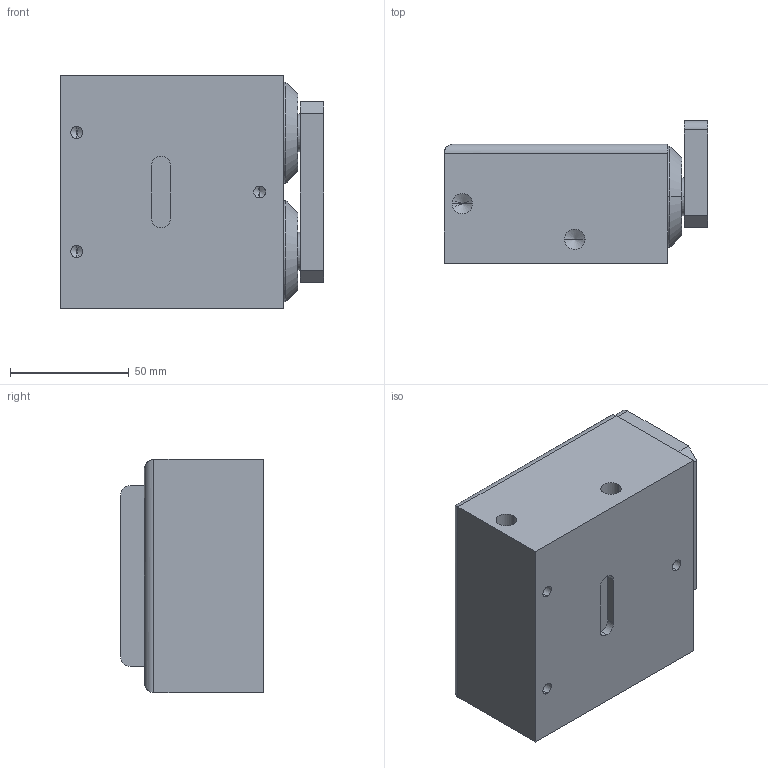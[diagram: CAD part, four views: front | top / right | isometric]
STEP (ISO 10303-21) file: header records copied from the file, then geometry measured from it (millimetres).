
FILE_DESCRIPTION (( 'STEP AP203' ), '1' );
FILE_NAME ('DESHB270.STEP', '2008-09-24T10:42:51', ( '' ), ( '' ), 'SwSTEP 2.0', 'SolidWorks 2007', '' );
FILE_SCHEMA (( 'CONFIG_CONTROL_DESIGN' ));
Length unit declared in the file: millimetre
Products named in the file (1): DESHB270
Bounding box: 111 x 60 x 98 mm (x, y, z)
Volume: 504648.5 mm3; surface area: 48501.2 mm2
Topology: 1 solids, 1 shells, 107 faces, 248 edges, 155 vertices
Faces by surface type: plane 49, cylinder 44, cone 14
Entity records: 3053 total; most frequent: DIRECTION 540, CARTESIAN_POINT 507, ORIENTED_EDGE 476, EDGE_CURVE 238, AXIS2_PLACEMENT_3D 196, VERTEX_POINT 155, VECTOR 148, LINE 148
